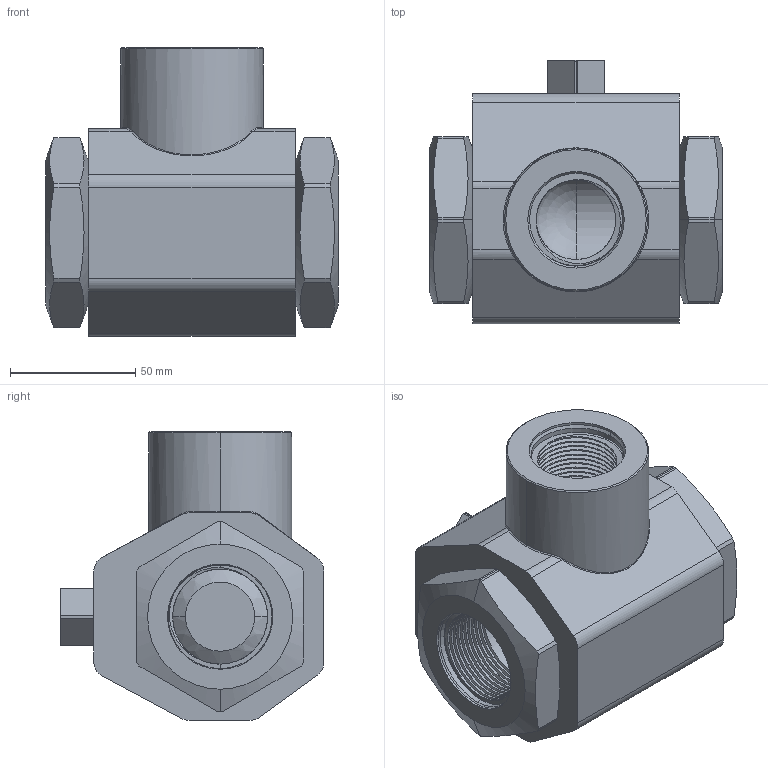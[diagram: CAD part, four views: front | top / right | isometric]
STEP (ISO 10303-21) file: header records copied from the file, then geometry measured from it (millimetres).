
FILE_DESCRIPTION (( 'STEP AP203' ), '1' );
FILE_NAME ('CFM-S24TL.STEP', '2022-02-28T18:21:58', ( '' ), ( '' ), 'SwSTEP 2.0', 'SolidWorks 2021', '' );
FILE_SCHEMA (( 'CONFIG_CONTROL_DESIGN' ));
Length unit declared in the file: inch
Products named in the file (5): CFM-S24-ENDFITTING; CFM-S24TL-BALL; CFM-S24TL-STEM; CFM-S24TL
Assembly tree (5 placements, depth 2):
  CFM-S24TL
    CFM-S24TL
    CFM-S24TL-STEM
    CFM-S24-ENDFITTING  x2
    CFM-S24TL-BALL
Bounding box: 117.04 x 105.5 x 115.5 mm (x, y, z)
Volume: 573163.5 mm3; surface area: 116889.8 mm2
Topology: 5 solids, 5 shells, 238 faces, 632 edges, 409 vertices
Faces by surface type: cylinder 136, plane 53, cone 22, bspline 17, torus 7, sphere 3
Entity records: 13294 total; most frequent: CARTESIAN_POINT 8606, ORIENTED_EDGE 938, DIRECTION 827, EDGE_CURVE 469, AXIS2_PLACEMENT_3D 323, VERTEX_POINT 300, EDGE_LOOP 193, LINE 181
